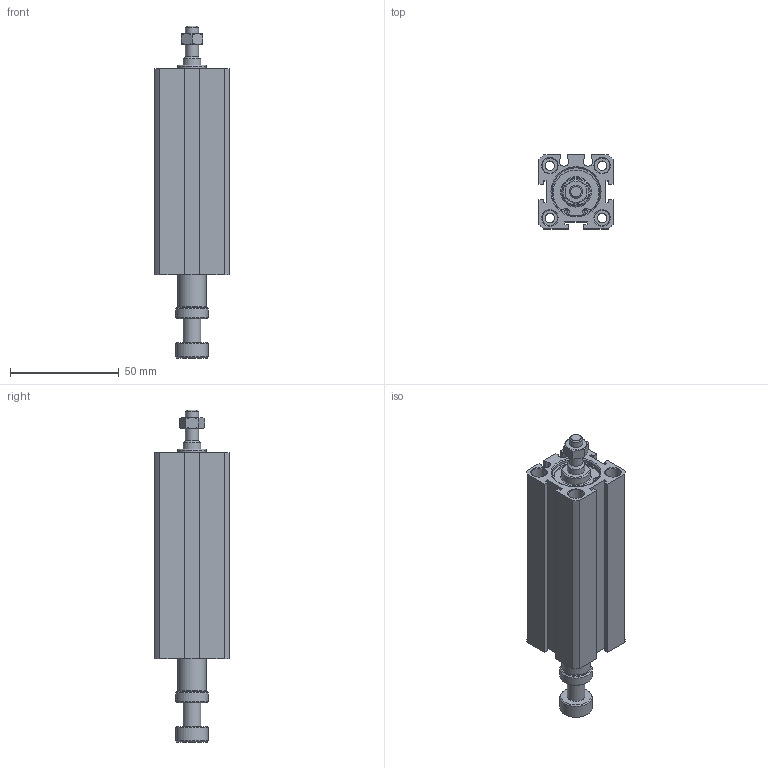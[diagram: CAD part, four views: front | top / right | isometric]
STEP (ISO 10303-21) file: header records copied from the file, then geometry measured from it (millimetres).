
FILE_DESCRIPTION((''),'2;1');
FILE_NAME('I:\3D電子目錄\氣缸\JDAR\JDAR-BS\JDAR20-BS\JDAR20x65-BS.stp','2007-05-05T10:46:22',('662F206'),(''),'Autodesk Inventor 11','Autodesk Inventor 11','');
FILE_SCHEMA(('AUTOMOTIVE_DESIGN { 1 0 10303 214 1 1 1 1 }'));
Length unit declared in the file: millimetre
Products named in the file (3): JDAR20-BS; R 形環 23
Assembly tree (3 placements, depth 2):
  JDAR20-BS
    JDAR20-BS
    R 形環 23  x2
Bounding box: 34 x 34 x 152.3 mm (x, y, z)
Volume: 94903.8 mm3; surface area: 29342.2 mm2
Topology: 3 solids, 3 shells, 152 faces, 341 edges, 221 vertices
Faces by surface type: plane 74, cylinder 50, cone 20, bspline 6, torus 2
Full cylindrical faces by diameter (mm): 1.5 x6, 4.3 x4, 6 x2, 7 x8, 8 x2, 13 x2, 15 x2, 22 x4, 23.2 x2
Entity records: 3749 total; most frequent: CARTESIAN_POINT 742, DIRECTION 628, ORIENTED_EDGE 498, AXIS2_PLACEMENT_3D 251, EDGE_CURVE 249, EDGE_LOOP 234, VERTEX_POINT 195, FACE_OUTER_BOUND 140
